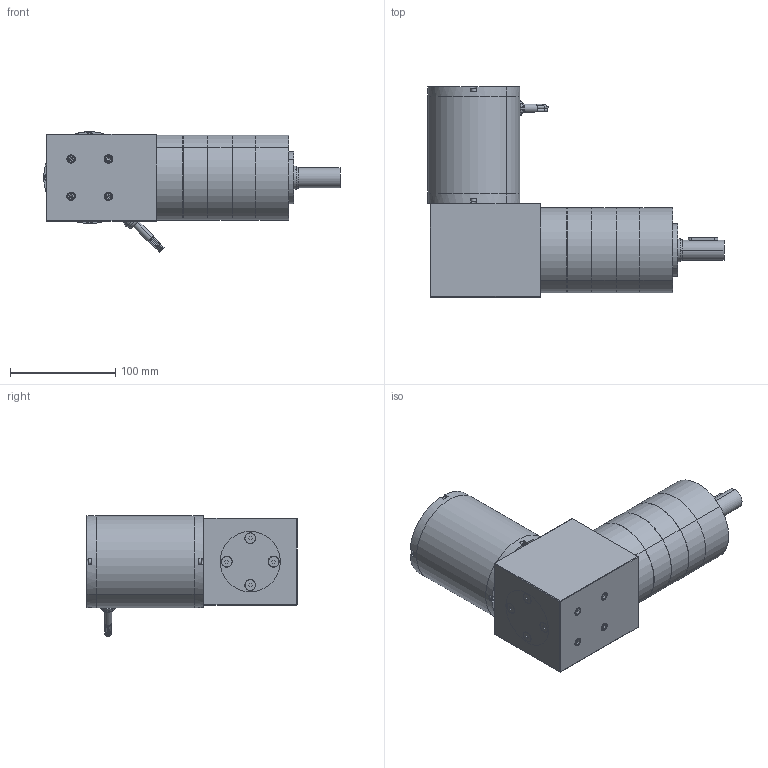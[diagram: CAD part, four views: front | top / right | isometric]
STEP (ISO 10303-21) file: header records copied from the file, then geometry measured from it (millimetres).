
FILE_DESCRIPTION (( 'STEP AP203' ), '1' );
FILE_NAME ('bl87500gra4.step', '2018-12-07T19:11:24', ( '' ), ( '' ), 'SwSTEP 2.0', 'SolidWorks 2017', '' );
FILE_SCHEMA (( 'CONFIG_CONTROL_DESIGN' ));
Length unit declared in the file: inch
Products named in the file (1): bl87500gra4
Bounding box: 281.38 x 199.39 x 114.6 mm (x, y, z)
Volume: 2097346.8 mm3; surface area: 215340.6 mm2
Topology: 30 solids, 30 shells, 1222 faces, 3058 edges, 1964 vertices
Faces by surface type: cylinder 729, plane 350, cone 125, torus 10, bspline 8
Entity records: 55518 total; most frequent: CARTESIAN_POINT 28785, ORIENTED_EDGE 6068, DIRECTION 5107, EDGE_CURVE 3034, VERTEX_POINT 1964, AXIS2_PLACEMENT_3D 1866, LINE 1375, VECTOR 1375
